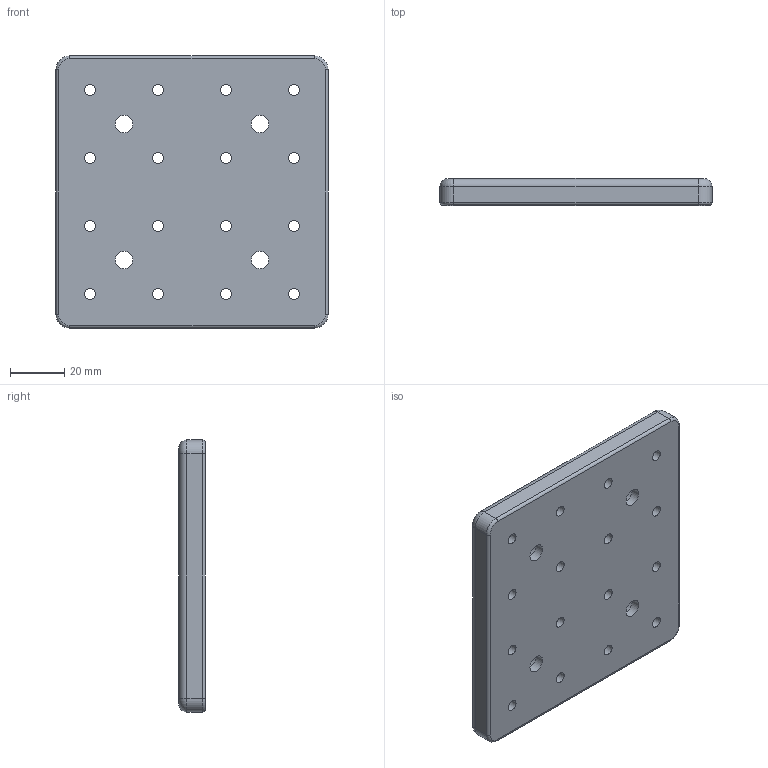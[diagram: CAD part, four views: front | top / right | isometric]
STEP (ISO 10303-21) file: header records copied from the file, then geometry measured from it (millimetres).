
FILE_DESCRIPTION (( 'STEP AP203' ), '1' );
FILE_NAME ('M-PAB-1010-10P.step', '2017-01-10T01:15:13', ( '¦K¬P' ), ( '' ), 'SwSTEP 2.0', 'SolidWorks 2012', '' );
FILE_SCHEMA (( 'CONFIG_CONTROL_DESIGN' ));
Length unit declared in the file: millimetre
Products named in the file (1): M-PAB-1010-10P
Bounding box: 100 x 9.8 x 100 mm (x, y, z)
Volume: 92078.9 mm3; surface area: 25587.4 mm2
Topology: 1 solids, 1 shells, 54 faces, 128 edges, 80 vertices
Faces by surface type: cylinder 36, plane 10, torus 8
Full cylindrical faces by diameter (mm): 4 x16, 6.5 x4, 11 x4
Entity records: 1621 total; most frequent: DIRECTION 294, CARTESIAN_POINT 239, ORIENTED_EDGE 208, AXIS2_PLACEMENT_3D 135, EDGE_LOOP 122, EDGE_CURVE 104, VERTEX_POINT 80, CIRCLE 80
